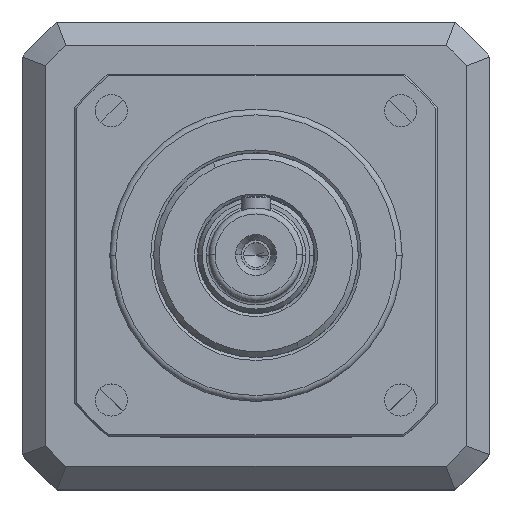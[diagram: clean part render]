
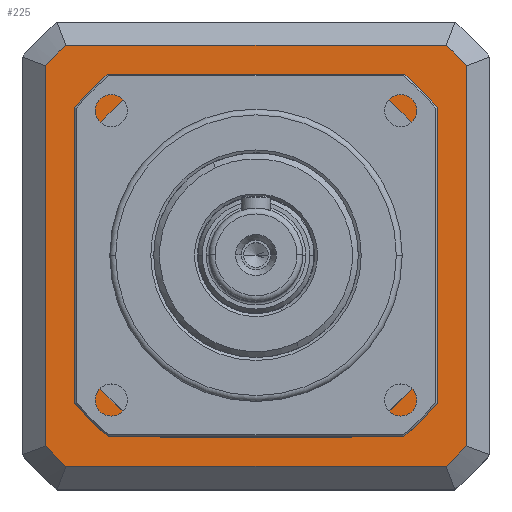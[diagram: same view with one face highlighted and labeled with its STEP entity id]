
A CAD part, top view. The second image highlights one B-rep face of the part: STEP entity #225.
In plain terms, the highlighted planar face has unit normal (0, 0, 1).
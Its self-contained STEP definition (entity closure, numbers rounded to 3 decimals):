
#174 = CARTESIAN_POINT ( 'NONE',  ( 0., -36., -58. ) ) ;
#225 = ADVANCED_FACE ( 'NONE', ( #16725, #12310 ), #15253, .T. ) ;
#234 = VERTEX_POINT ( 'NONE', #18384 ) ;
#248 = CARTESIAN_POINT ( 'NONE',  ( -36., -32.5, -58. ) ) ;
#746 = DIRECTION ( 'NONE',  ( 0., 1., 0. ) ) ;
#1118 = EDGE_CURVE ( 'NONE', #15413, #3548, #1831, .T. ) ;
#1265 = CARTESIAN_POINT ( 'NONE',  ( 32.5, 36., -58. ) ) ;
#1593 = CARTESIAN_POINT ( 'NONE',  ( 0., 0., -58. ) ) ;
#1599 = VERTEX_POINT ( 'NONE', #4787 ) ;
#1788 = VERTEX_POINT ( 'NONE', #1938 ) ;
#1831 = CIRCLE ( 'NONE', #3091, 35. ) ;
#1834 = CARTESIAN_POINT ( 'NONE',  ( 0., 0., -58. ) ) ;
#1938 = CARTESIAN_POINT ( 'NONE',  ( 31., -16.248, -58. ) ) ;
#2147 = ORIENTED_EDGE ( 'NONE', *, *, #13051, .T. ) ;
#2165 = ORIENTED_EDGE ( 'NONE', *, *, #16595, .F. ) ;
#2169 = DIRECTION ( 'NONE',  ( 0., 0., 1. ) ) ;
#2291 = DIRECTION ( 'NONE',  ( 1., 0., 0. ) ) ;
#2315 = VERTEX_POINT ( 'NONE', #8749 ) ;
#2331 = ORIENTED_EDGE ( 'NONE', *, *, #15411, .T. ) ;
#2428 = CARTESIAN_POINT ( 'NONE',  ( -31., 16.248, -58. ) ) ;
#2502 = DIRECTION ( 'NONE',  ( 0., 1., 0. ) ) ;
#2793 = VERTEX_POINT ( 'NONE', #1265 ) ;
#2810 = VERTEX_POINT ( 'NONE', #7456 ) ;
#2874 = ORIENTED_EDGE ( 'NONE', *, *, #10129, .T. ) ;
#2957 = ORIENTED_EDGE ( 'NONE', *, *, #19255, .F. ) ;
#2975 = DIRECTION ( 'NONE',  ( 0., 0., 1. ) ) ;
#3091 = AXIS2_PLACEMENT_3D ( 'NONE', #15408, #15895, #2291 ) ;
#3256 = VERTEX_POINT ( 'NONE', #18273 ) ;
#3352 = CARTESIAN_POINT ( 'NONE',  ( -36., 32.5, -58. ) ) ;
#3548 = VERTEX_POINT ( 'NONE', #10239 ) ;
#3761 = CARTESIAN_POINT ( 'NONE',  ( -31., 16.248, -58. ) ) ;
#3950 = CIRCLE ( 'NONE', #14266, 35. ) ;
#4138 = CARTESIAN_POINT ( 'NONE',  ( 0., 0., -58. ) ) ;
#4350 = VECTOR ( 'NONE', #16857, 1000. ) ;
#4387 = EDGE_CURVE ( 'NONE', #3256, #2315, #8333, .T. ) ;
#4482 = DIRECTION ( 'NONE',  ( 0., 0., 1. ) ) ;
#4483 = AXIS2_PLACEMENT_3D ( 'NONE', #10549, #6145, #18079 ) ;
#4686 = DIRECTION ( 'NONE',  ( 1., 0., 0. ) ) ;
#4736 = DIRECTION ( 'NONE',  ( 0., -1., 0. ) ) ;
#4787 = CARTESIAN_POINT ( 'NONE',  ( -32.5, -36., -58. ) ) ;
#4878 = VECTOR ( 'NONE', #18755, 1000. ) ;
#4888 = AXIS2_PLACEMENT_3D ( 'NONE', #18087, #18374, #4686 ) ;
#4892 = DIRECTION ( 'NONE',  ( 1., 0., 0. ) ) ;
#5163 = CARTESIAN_POINT ( 'NONE',  ( 31., 16.248, -58. ) ) ;
#5319 = DIRECTION ( 'NONE',  ( 1., 0., 0. ) ) ;
#5351 = VERTEX_POINT ( 'NONE', #3352 ) ;
#5455 = AXIS2_PLACEMENT_3D ( 'NONE', #4138, #2169, #5319 ) ;
#5481 = CARTESIAN_POINT ( 'NONE',  ( -31., -16.248, -58. ) ) ;
#5677 = AXIS2_PLACEMENT_3D ( 'NONE', #7666, #13344, #12154 ) ;
#5703 = EDGE_LOOP ( 'NONE', ( #17558, #9221, #2957, #15736, #7486, #7275, #2165, #14054 ) ) ;
#5738 = AXIS2_PLACEMENT_3D ( 'NONE', #7233, #14569, #6950 ) ;
#6132 = DIRECTION ( 'NONE',  ( 1., 0., 0. ) ) ;
#6145 = DIRECTION ( 'NONE',  ( 0., 0., 1. ) ) ;
#6377 = VERTEX_POINT ( 'NONE', #248 ) ;
#6816 = LINE ( 'NONE', #12774, #4878 ) ;
#6838 = EDGE_CURVE ( 'NONE', #19066, #18767, #3950, .T. ) ;
#6843 = EDGE_CURVE ( 'NONE', #5351, #6377, #15010, .T. ) ;
#6918 = VECTOR ( 'NONE', #9909, 1000. ) ;
#6950 = DIRECTION ( 'NONE',  ( 1., 0., 0. ) ) ;
#7233 = CARTESIAN_POINT ( 'NONE',  ( 0., 0., -58. ) ) ;
#7275 = ORIENTED_EDGE ( 'NONE', *, *, #15620, .F. ) ;
#7456 = CARTESIAN_POINT ( 'NONE',  ( 16.248, -31., -58. ) ) ;
#7486 = ORIENTED_EDGE ( 'NONE', *, *, #14520, .F. ) ;
#7549 = ORIENTED_EDGE ( 'NONE', *, *, #6843, .T. ) ;
#7642 = DIRECTION ( 'NONE',  ( 1., 0., 0. ) ) ;
#7666 = CARTESIAN_POINT ( 'NONE',  ( 0., 0., -58. ) ) ;
#7985 = CIRCLE ( 'NONE', #14863, 48.5 ) ;
#8333 = CIRCLE ( 'NONE', #4888, 35. ) ;
#8749 = CARTESIAN_POINT ( 'NONE',  ( 16.248, 31., -58. ) ) ;
#8849 = CIRCLE ( 'NONE', #5738, 48.5 ) ;
#8955 = DIRECTION ( 'NONE',  ( 1., 0., 0. ) ) ;
#9195 = CIRCLE ( 'NONE', #5455, 48.5 ) ;
#9221 = ORIENTED_EDGE ( 'NONE', *, *, #6838, .F. ) ;
#9444 = CARTESIAN_POINT ( 'NONE',  ( -16.248, 31., -58. ) ) ;
#9684 = CARTESIAN_POINT ( 'NONE',  ( 36., -32.5, -58. ) ) ;
#9771 = ORIENTED_EDGE ( 'NONE', *, *, #12669, .T. ) ;
#9909 = DIRECTION ( 'NONE',  ( -1., 0., 0. ) ) ;
#10129 = EDGE_CURVE ( 'NONE', #1599, #19251, #16928, .T. ) ;
#10239 = CARTESIAN_POINT ( 'NONE',  ( -16.248, -31., -58. ) ) ;
#10549 = CARTESIAN_POINT ( 'NONE',  ( 0., 0., -58. ) ) ;
#10879 = LINE ( 'NONE', #15389, #4350 ) ;
#10920 = LINE ( 'NONE', #5163, #17579 ) ;
#10986 = ORIENTED_EDGE ( 'NONE', *, *, #12442, .T. ) ;
#11114 = EDGE_CURVE ( 'NONE', #19251, #11384, #9195, .T. ) ;
#11384 = VERTEX_POINT ( 'NONE', #9684 ) ;
#11651 = VECTOR ( 'NONE', #7642, 1000. ) ;
#12022 = LINE ( 'NONE', #17446, #6918 ) ;
#12154 = DIRECTION ( 'NONE',  ( 1., 0., 0. ) ) ;
#12310 = FACE_BOUND ( 'NONE', #5703, .T. ) ;
#12442 = EDGE_CURVE ( 'NONE', #6377, #1599, #17546, .T. ) ;
#12669 = EDGE_CURVE ( 'NONE', #2793, #15143, #12022, .T. ) ;
#12697 = VECTOR ( 'NONE', #4736, 1000. ) ;
#12774 = CARTESIAN_POINT ( 'NONE',  ( -16.248, 31., -58. ) ) ;
#12796 = LINE ( 'NONE', #17111, #14744 ) ;
#12911 = CIRCLE ( 'NONE', #4483, 35. ) ;
#13051 = EDGE_CURVE ( 'NONE', #11384, #234, #12796, .T. ) ;
#13344 = DIRECTION ( 'NONE',  ( 0., 0., 1. ) ) ;
#13347 = EDGE_CURVE ( 'NONE', #18767, #15413, #16978, .T. ) ;
#14054 = ORIENTED_EDGE ( 'NONE', *, *, #1118, .F. ) ;
#14125 = VECTOR ( 'NONE', #16871, 1000. ) ;
#14266 = AXIS2_PLACEMENT_3D ( 'NONE', #1593, #2975, #8955 ) ;
#14520 = EDGE_CURVE ( 'NONE', #1788, #3256, #10920, .T. ) ;
#14569 = DIRECTION ( 'NONE',  ( 0., 0., 1. ) ) ;
#14717 = EDGE_LOOP ( 'NONE', ( #18097, #7549, #10986, #2874, #14871, #2147, #2331, #9771 ) ) ;
#14744 = VECTOR ( 'NONE', #746, 1000. ) ;
#14863 = AXIS2_PLACEMENT_3D ( 'NONE', #19249, #4482, #6132 ) ;
#14871 = ORIENTED_EDGE ( 'NONE', *, *, #11114, .T. ) ;
#15010 = LINE ( 'NONE', #18141, #12697 ) ;
#15143 = VERTEX_POINT ( 'NONE', #17817 ) ;
#15253 = PLANE ( 'NONE',  #18381 ) ;
#15389 = CARTESIAN_POINT ( 'NONE',  ( -16.248, -31., -58. ) ) ;
#15408 = CARTESIAN_POINT ( 'NONE',  ( 0., 0., -58. ) ) ;
#15411 = EDGE_CURVE ( 'NONE', #234, #2793, #8849, .T. ) ;
#15413 = VERTEX_POINT ( 'NONE', #5481 ) ;
#15620 = EDGE_CURVE ( 'NONE', #2810, #1788, #12911, .T. ) ;
#15736 = ORIENTED_EDGE ( 'NONE', *, *, #4387, .F. ) ;
#15815 = CARTESIAN_POINT ( 'NONE',  ( 32.5, -36., -58. ) ) ;
#15895 = DIRECTION ( 'NONE',  ( 0., 0., 1. ) ) ;
#16595 = EDGE_CURVE ( 'NONE', #3548, #2810, #10879, .T. ) ;
#16725 = FACE_OUTER_BOUND ( 'NONE', #14717, .T. ) ;
#16857 = DIRECTION ( 'NONE',  ( 1., 0., 0. ) ) ;
#16871 = DIRECTION ( 'NONE',  ( 0., -1., 0. ) ) ;
#16928 = LINE ( 'NONE', #174, #11651 ) ;
#16978 = LINE ( 'NONE', #3761, #14125 ) ;
#17111 = CARTESIAN_POINT ( 'NONE',  ( 36., 0., -58. ) ) ;
#17446 = CARTESIAN_POINT ( 'NONE',  ( 0., 36., -58. ) ) ;
#17546 = CIRCLE ( 'NONE', #5677, 48.5 ) ;
#17558 = ORIENTED_EDGE ( 'NONE', *, *, #13347, .F. ) ;
#17579 = VECTOR ( 'NONE', #2502, 1000. ) ;
#17817 = CARTESIAN_POINT ( 'NONE',  ( -32.5, 36., -58. ) ) ;
#18079 = DIRECTION ( 'NONE',  ( 1., 0., 0. ) ) ;
#18087 = CARTESIAN_POINT ( 'NONE',  ( 0., 0., -58. ) ) ;
#18097 = ORIENTED_EDGE ( 'NONE', *, *, #18914, .T. ) ;
#18141 = CARTESIAN_POINT ( 'NONE',  ( -36., 0., -58. ) ) ;
#18273 = CARTESIAN_POINT ( 'NONE',  ( 31., 16.248, -58. ) ) ;
#18288 = DIRECTION ( 'NONE',  ( 0., 0., 1. ) ) ;
#18374 = DIRECTION ( 'NONE',  ( 0., 0., 1. ) ) ;
#18381 = AXIS2_PLACEMENT_3D ( 'NONE', #1834, #18288, #4892 ) ;
#18384 = CARTESIAN_POINT ( 'NONE',  ( 36., 32.5, -58. ) ) ;
#18755 = DIRECTION ( 'NONE',  ( -1., 0., 0. ) ) ;
#18767 = VERTEX_POINT ( 'NONE', #2428 ) ;
#18914 = EDGE_CURVE ( 'NONE', #15143, #5351, #7985, .T. ) ;
#19066 = VERTEX_POINT ( 'NONE', #9444 ) ;
#19249 = CARTESIAN_POINT ( 'NONE',  ( 0., 0., -58. ) ) ;
#19251 = VERTEX_POINT ( 'NONE', #15815 ) ;
#19255 = EDGE_CURVE ( 'NONE', #2315, #19066, #6816, .T. ) ;
